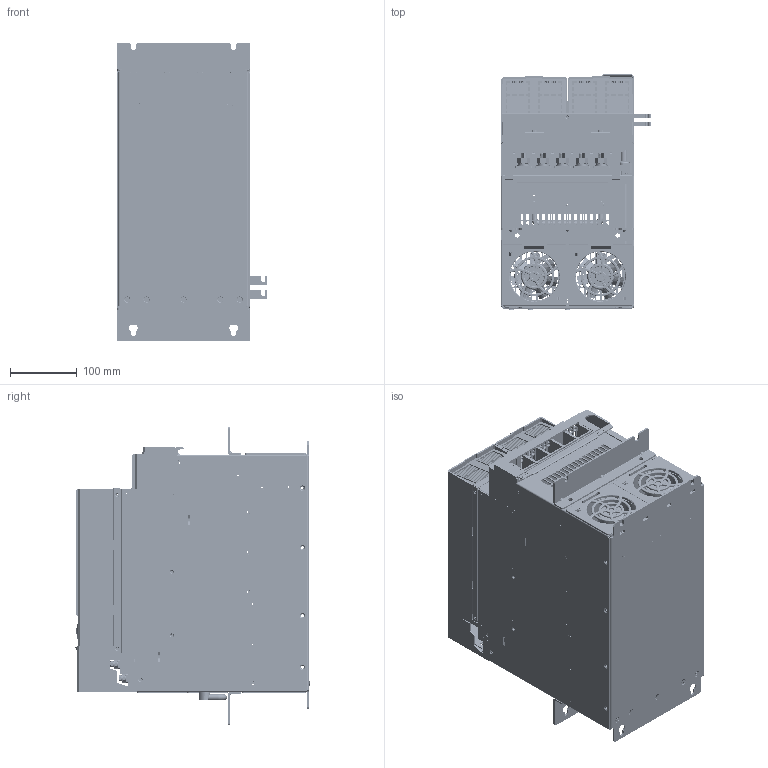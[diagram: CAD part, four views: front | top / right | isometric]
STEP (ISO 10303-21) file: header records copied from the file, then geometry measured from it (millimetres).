
FILE_DESCRIPTION((''),'2;1');
FILE_NAME('ASM0001_ASM','2024-12-02T11:05:27',('Administrator'),(''),'CREO PARAMETRIC BY PTC INC, 2019080','CREO PARAMETRIC BY PTC INC, 2019080','');
FILE_SCHEMA(('CONFIG_CONTROL_DESIGN'));
Products named in the file (114): 80340351_1_1; S-M3-ZC_1_1; 80340351_ASM_1_ASM_1_ASM; 80340351SY_1_1; 80340351SY_ASM_1_ASM_1_ASM; 80385526_1_1; TPR-4-12-SL_1_1; GB12617_4_4X8_SL_1_1; 80385526_ASM_1_ASM_1_ASM; 803811757_1_1; 86052753_2_1; FH-M3-6-ZC_1_1; 86052753_ASM_1_ASM_1_ASM; 803811755_2_1; S-M5-ZC_1_1; 803811755_ASM_2_ASM_1_ASM; 803811755SY_1_1; 803811755SY_ASM_1_ASM_1_ASM; 803811751_1_1; HC-HFH-M10-25-ZC-R0_1_1; 803811751_ASM_1_ASM_1_ASM; 61500986_ASM_2_ASM_1_ASM; WG-02-0004_1_1; 61063083_ASM_1_ASM_1_ASM; 80310987_1_1; S-M4-ZC_1_1; 80310987_ASM_1_ASM_1_ASM; 80385531_1_1; 80385531_ASM_1_ASM_1_ASM; 80385532_1_1; 80385532_ASM_1_ASM_1_ASM; GB819_1_1976_M4X8_1_1; 61210859_ASM_1_ASM_1_ASM; 803811753_2_1; 803811753_ASM_1_ASM_1_ASM; 80385537_1_1; SO-3D5M3-8-ZC_1_1; 80385537_ASM_1_ASM_1_ASM; 41060281_ASM_2_ASM_1_ASM; 86052744_1_1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
Assembly tree (229 placements, depth 9):
  ASM0001_ASM
    0-GD600-61-110-4-B_ASM_ASM_1_ASM
      0-GD600-61-110-4-B_ASM_3_ASM_1_ASM
        41060281_ASM_2_ASM_1_ASM
          61063083_ASM_1_ASM_1_ASM
            80340351SY_ASM_1_ASM_1_ASM
              80340351_ASM_1_ASM_1_ASM
                80340351_1_1
                S-M3-ZC_1_1  x2
              80340351SY_1_1
            80385526_ASM_1_ASM_1_ASM
              80385526_1_1
              TPR-4-12-SL_1_1  x4
              GB12617_4_4X8_SL_1_1  x2
            803811757_1_1
            86052753_ASM_1_ASM_1_ASM
              86052753_2_1
              S-M3-ZC_1_1  x2
              FH-M3-6-ZC_1_1
            61500986_ASM_2_ASM_1_ASM
              803811755SY_ASM_1_ASM_1_ASM
                803811755_ASM_2_ASM_1_ASM
                  803811755_2_1
                  S-M3-ZC_1_1
                  S-M5-ZC_1_1  x2
                803811755SY_1_1
              803811751_ASM_1_ASM_1_ASM
                803811751_1_1
                HC-HFH-M10-25-ZC-R0_1_1
              GB12617_4_4X8_SL_1_1  x3
            WG-02-0004_1_1
            GB12617_4_4X8_SL_1_1  x41
          61210859_ASM_1_ASM_1_ASM
            80310987_ASM_1_ASM_1_ASM
              80310987_1_1
              S-M4-ZC_1_1  x8
            80385531_ASM_1_ASM_1_ASM
              80385531_1_1
              S-M5-ZC_1_1  x2
              S-M4-ZC_1_1  x5
            80385532_ASM_1_ASM_1_ASM
              80385532_1_1
              S-M5-ZC_1_1
            GB12617_4_4X8_SL_1_1  x6
            GB819_1_1976_M4X8_1_1  x5
          803811753_ASM_1_ASM_1_ASM  x4
            803811753_2_1
            S-M4-ZC_1_1
            S-M3-ZC_1_1
          80385537_ASM_1_ASM_1_ASM
            80385537_1_1
            SO-3D5M3-8-ZC_1_1  x2
            S-M3-ZC_1_1  x2
        86052744SY_ASM_1_ASM_1_ASM
          86052744_1_1
          86052744SY_1_1
        GD600-61-110-4-B-ES_ASM_3_ASM_1_ASM
          AO-147_76_ASM_1_ASM_1_ASM
            147_SW0001_1_ASM_1_ASM_1_ASM
              147_SW0001_1_1_AF0_1_1
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Bounding box: 225 x 352.4 x 447 mm (x, y, z)
Volume: 1809820.6 mm3; surface area: 1850806.9 mm2
Topology: 181 solids, 181 shells, 17279 faces, 47964 edges, 31426 vertices
Faces by surface type: plane 10605, cylinder 4878, cone 1110, torus 451, bspline 157, extrusion 44, sphere 34
Entity records: 397657 total; most frequent: CARTESIAN_POINT 97159, ORIENTED_EDGE 62414, DIRECTION 61202, EDGE_CURVE 31207, VECTOR 21876, LINE 21846, VERTEX_POINT 20452, AXIS2_PLACEMENT_3D 19663
